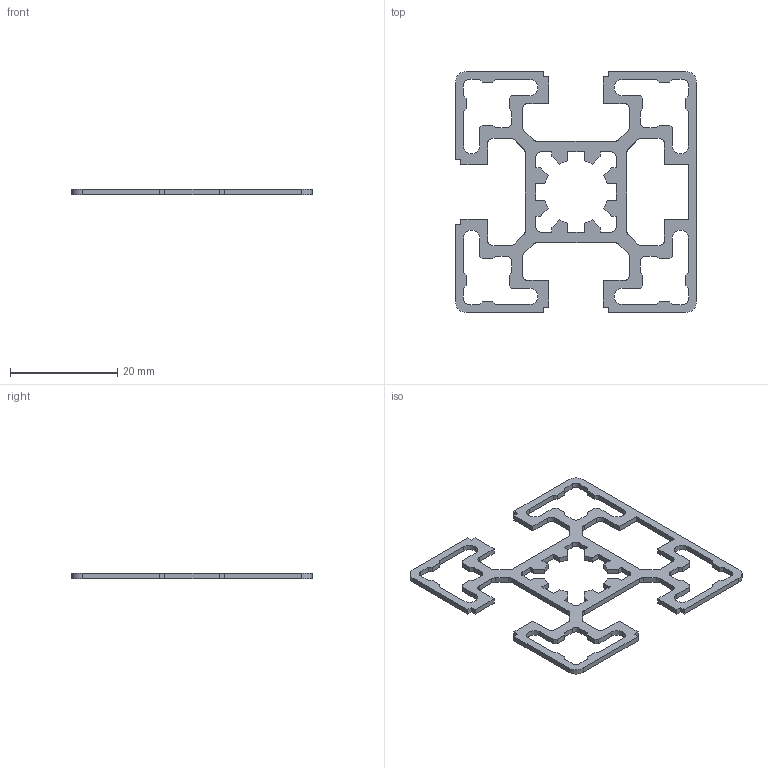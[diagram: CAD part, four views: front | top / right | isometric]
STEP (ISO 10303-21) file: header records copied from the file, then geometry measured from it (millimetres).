
FILE_DESCRIPTION(/* description */ ('Profilo 45x45 1 lato chiuso'),/* implementation_level */ '2;1');
FILE_NAME(/* name */ 'C:\omnitec\Desktop\Profili\PG40\PG4545C.stp',/* time_stamp */ '2021-02-19T16:45:45+01:00',/* author */ ('omnitec'),/* organization */ (''),/* preprocessor_version */ 'ST-DEVELOPER v18.1',/* originating_system */ 'Autodesk Inventor 2021',/* authorisation */ '');
FILE_SCHEMA (('AUTOMOTIVE_DESIGN { 1 0 10303 214 3 1 1 }'));
Length unit declared in the file: millimetre
Products named in the file (1): PG4545C---1,0
Bounding box: 45 x 45 x 1 mm (x, y, z)
Volume: 655.4 mm3; surface area: 1972.5 mm2
Topology: 1 solids, 1 shells, 230 faces, 684 edges, 456 vertices
Faces by surface type: plane 174, cylinder 56
Entity records: 7725 total; most frequent: CARTESIAN_POINT 1371, ORIENTED_EDGE 1368, DIRECTION 1258, EDGE_CURVE 684, LINE 572, VECTOR 572, VERTEX_POINT 456, AXIS2_PLACEMENT_3D 343
